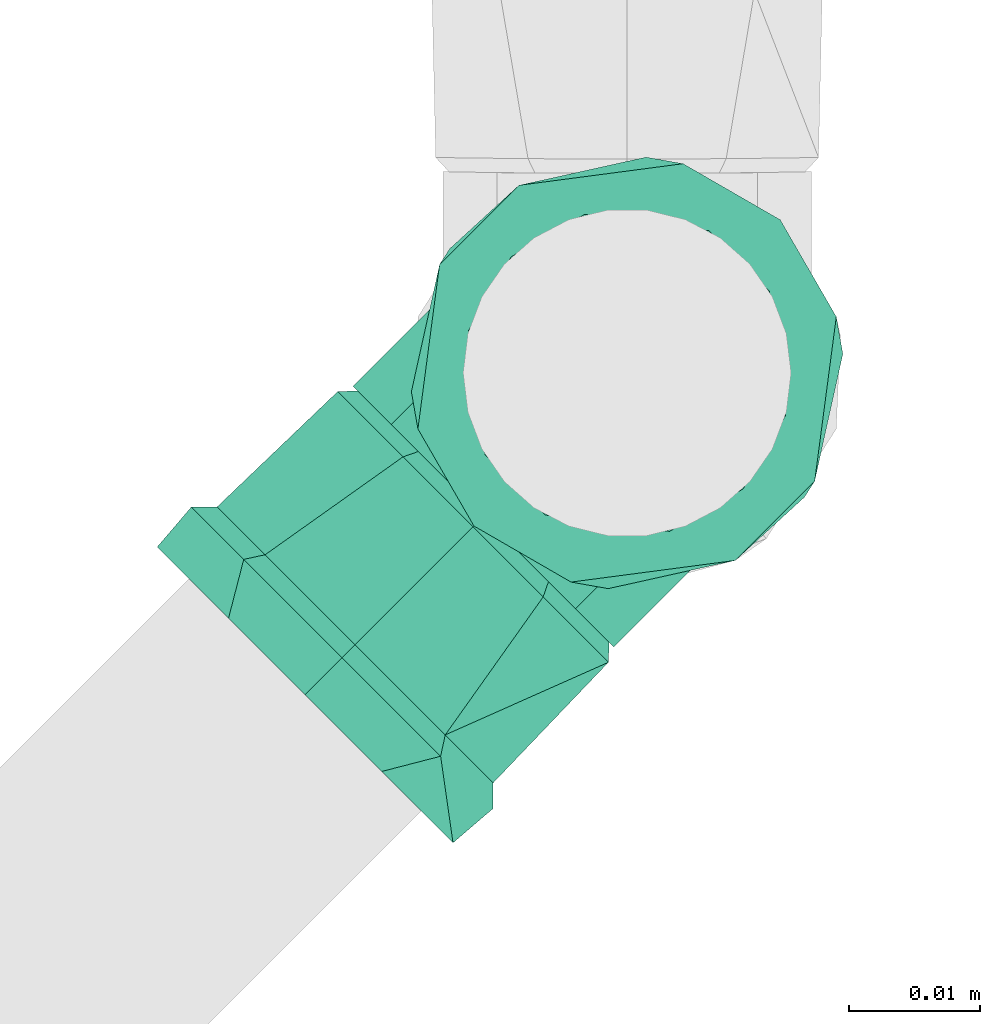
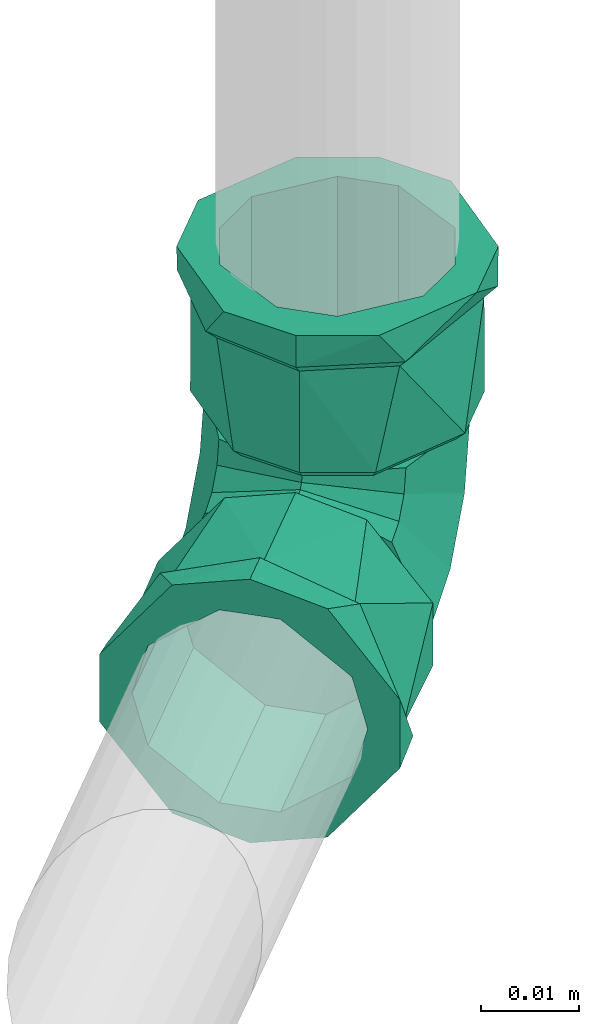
# One storey, part 341 of 589: 1 flow fitting.
"""IFC2X3 building model written with IfcOpenShell, lengths in millimetres."""

import ifcopenshell
import ifcopenshell.guid

model = None  # the IFC model being written
_history = None  # IfcOwnerHistory: only IFC2X3 demands one
_inside = {}  # id of a spatial element -> (the spatial element, [elements in it])
_under = {}  # id of a project, library or spatial element -> (it, [spatial elements below it])
_declared = {}  # id of a project -> (the project, [libraries it declares])
_typed = {}  # id of a type object -> (the type object, [elements of that type])
_made_of = {}  # id of a material, layer set ... -> (it, [elements and type objects made of it])


def new_model(schema):
    """Start an empty IFC model of exactly this schema.

    Asked for "IFC4X3", IfcOpenShell would pick the latest addendum, in which some entities
    have other attributes; the version numbers below select the first issue.
    IFC2X3 requires an IfcOwnerHistory on every rooted entity: one is made here for all.
    """
    global model, _history
    if schema == "IFC4X3":
        model = ifcopenshell.file(schema_version=(4, 3, 0, 0))
    else:
        model = ifcopenshell.file(schema=schema)
    _inside.clear()
    _under.clear()
    _declared.clear()
    _typed.clear()
    _made_of.clear()
    _history = None
    if model.schema == "IFC2X3":
        org = make("IfcOrganization", Name="unknown")
        user = make(
            "IfcPersonAndOrganization",
            ThePerson=make("IfcPerson", FamilyName="unknown"),
            TheOrganization=org,
        )
        app = make(
            "IfcApplication",
            ApplicationDeveloper=org,
            Version="unknown",
            ApplicationFullName="unknown",
            ApplicationIdentifier="unknown",
        )
        _history = make(
            "IfcOwnerHistory",
            OwningUser=user,
            OwningApplication=app,
            ChangeAction="ADDED",
            CreationDate=0,
        )
    return model


def make(cls, **values):
    """One entity of the class cls with the attributes given. An attribute that is None is left unset."""
    return model.create_entity(
        cls, **{name: value for name, value in values.items() if value is not None}
    )


def entity(cls, *values):
    """Any entity or typed value of the class cls, its attributes in the order of the schema. None: left unset."""
    e = model.create_entity(cls)
    for i, value in enumerate(values):
        if value is not None:
            e[i] = value
    return e


def rooted(cls, **values):
    """An entity with a GlobalId (a new one), such as an element, a storey or a relation."""
    return make(cls, GlobalId=ifcopenshell.guid.new(), OwnerHistory=_history, **values)


def si_unit(unit_type, name, prefix=None):
    """IfcSIUnit, for example si_unit("LENGTHUNIT", "METRE", prefix="MILLI")."""
    return make("IfcSIUnit", UnitType=unit_type, Prefix=prefix, Name=name)


def converted_unit(unit_type, name, factor, base, dimensions=None, offset=None):
    """IfcConversionBasedUnit, such as the inch: factor (a typed value) times the base unit."""
    return make(
        "IfcConversionBasedUnit"
        if offset is None
        else "IfcConversionBasedUnitWithOffset",
        ConversionOffset=offset,
        Dimensions=None
        if dimensions is None
        else entity("IfcDimensionalExponents", *dimensions),
        UnitType=unit_type,
        Name=name,
        ConversionFactor=make(
            "IfcMeasureWithUnit", ValueComponent=factor, UnitComponent=base
        ),
    )


def derived_unit(unit_type, elements):
    """IfcDerivedUnit: a product of units, each with its exponent."""
    return make(
        "IfcDerivedUnit",
        Elements=[
            make("IfcDerivedUnitElement", Unit=unit, Exponent=power)
            for unit, power in elements
        ],
        UnitType=unit_type,
    )


def assignment(units):
    """IfcUnitAssignment: the units of a project."""
    return None if units is None else make("IfcUnitAssignment", Units=units)


def point(xyz):
    """IfcCartesianPoint."""
    return None if xyz is None else make("IfcCartesianPoint", Coordinates=xyz)


def direction(xyz):
    """IfcDirection."""
    return None if xyz is None else make("IfcDirection", DirectionRatios=xyz)


def frame(location, z_axis=None, x_axis=None):
    """IfcAxis2Placement3D, a coordinate frame: its origin and axes. An axis left out is left unset."""
    return make(
        "IfcAxis2Placement3D",
        Location=point(location),
        Axis=direction(z_axis),
        RefDirection=direction(x_axis),
    )


def origin():
    """The frame at (0, 0, 0) with its axes left unset."""
    return frame((0.0, 0.0, 0.0))


def place(relative_to, where):
    """IfcLocalPlacement: puts the frame where relative to a parent placement (None: the world)."""
    return make(
        "IfcLocalPlacement", PlacementRelTo=relative_to, RelativePlacement=where
    )


def context(
    kind, dimensions, precision=None, world=None, true_north=None, identifier=None
):
    """IfcGeometricRepresentationContext, for example the 3D "Model" context."""
    return make(
        "IfcGeometricRepresentationContext",
        ContextIdentifier=identifier,
        ContextType=kind,
        CoordinateSpaceDimension=dimensions,
        Precision=precision,
        WorldCoordinateSystem=world,
        TrueNorth=true_north,
    )


def subcontext(parent, identifier, kind, view, scale=None):
    """IfcGeometricRepresentationSubContext, for example "Body" below "Model"."""
    return make(
        "IfcGeometricRepresentationSubContext",
        ContextIdentifier=identifier,
        ContextType=kind,
        ParentContext=parent,
        TargetScale=scale,
        TargetView=view,
    )


def project(units=None, contexts=None):
    """IfcProject with its units and contexts."""
    return rooted(
        "IfcProject",
        Name="project",
        RepresentationContexts=contexts,
        UnitsInContext=assignment(units),
    )


def spatial(cls, under=None, at=None, **own):
    """A site, building, storey or space (cls), placed at a placement, below another one or the project."""
    s = rooted(cls, ObjectPlacement=at, **own)
    if under is not None:
        _under.setdefault(under.id(), (under, []))[1].append(s)
    return s


def faces_of(points, faces, orient=None, outer=None):
    """IfcFace entities. A face is a list of loops; a loop is a list of indices into points, from 0.

    orient and outer hold one flag for each loop. By default every Orientation is true, the
    first loop of a face is its IfcFaceOuterBound and the others are IfcFaceBound.
    """
    made = []
    for i, loops in enumerate(faces):
        bounds = []
        for j, loop in enumerate(loops):
            is_outer = j == 0 if outer is None else outer[i][j]
            bounds.append(
                make(
                    "IfcFaceOuterBound" if is_outer else "IfcFaceBound",
                    Bound=make("IfcPolyLoop", Polygon=[points[k] for k in loop]),
                    Orientation=True if orient is None else orient[i][j],
                )
            )
        made.append(make("IfcFace", Bounds=bounds))
    return made


def faceted_brep(points, faces, orient=None, outer=None, voids=None):
    """IfcFacetedBrep: a solid bounded by flat faces; with voids (closed shells), ...WithVoids."""
    shared = [point(p) for p in points]
    hull = make("IfcClosedShell", CfsFaces=faces_of(shared, faces, orient, outer))
    if voids is None:
        return make("IfcFacetedBrep", Outer=hull)
    return make(
        "IfcFacetedBrepWithVoids",
        Outer=hull,
        Voids=[
            make(cls, CfsFaces=faces_of(shared, fs, o, b)) for cls, fs, o, b in voids
        ],
    )


def shape(context_of_items, identifier, shape_type, items):
    """IfcShapeRepresentation: the items that make up one representation, for example the "Body"."""
    return make(
        "IfcShapeRepresentation",
        ContextOfItems=context_of_items,
        RepresentationIdentifier=identifier,
        RepresentationType=shape_type,
        Items=items,
    )


def source(mapping_origin, context_of_items, identifier, shape_type, items):
    """IfcRepresentationMap: a shape defined once, which mapped items show again and again."""
    return make(
        "IfcRepresentationMap",
        MappingOrigin=mapping_origin,
        MappedRepresentation=shape(context_of_items, identifier, shape_type, items),
    )


def transform(
    local_origin,
    x_axis=None,
    y_axis=None,
    z_axis=None,
    scale=None,
    scale2=None,
    scale3=None,
    uniform=True,
):
    """IfcCartesianTransformationOperator3D, or its non-uniform kind. x_axis, y_axis, z_axis: its Axis1, 2, 3."""
    if uniform:
        return make(
            "IfcCartesianTransformationOperator3D",
            Axis1=direction(x_axis),
            Axis2=direction(y_axis),
            LocalOrigin=point(local_origin),
            Scale=scale,
            Axis3=direction(z_axis),
        )
    return make(
        "IfcCartesianTransformationOperator3DnonUniform",
        Axis1=direction(x_axis),
        Axis2=direction(y_axis),
        LocalOrigin=point(local_origin),
        Scale=scale,
        Axis3=direction(z_axis),
        Scale2=scale2,
        Scale3=scale3,
    )


def mapped(mapping_source, mapping_target):
    """IfcMappedItem: shows the shape of a source again, moved by a transform."""
    return make(
        "IfcMappedItem", MappingSource=mapping_source, MappingTarget=mapping_target
    )


def material(Name=None, Category=None):
    """IfcMaterial."""
    return make("IfcMaterial", Name=Name, Category=Category)


def made_of(thing, what):
    """Note that an element or type object is made of a material, layer set ...; save() writes the relation."""
    if what is not None:
        _made_of.setdefault(what.id(), (what, []))[1].append(thing)
    return thing


def type_object(cls, material=None, **own):
    """A type object (cls), such as IfcWallType, which elements share."""
    return made_of(rooted(cls, **own), material)


def type_shapes(of_type, sources):
    """Give a type object the sources (RepresentationMaps) that its elements show as mapped items."""
    of_type.RepresentationMaps = sources


def element(
    cls,
    number,
    at=None,
    inside=None,
    cuts=None,
    type_object=None,
    material=None,
    context=None,
    identifier="Body",
    shape_type=None,
    held_by="IfcProductDefinitionShape",
    body=None,
    shapes=None,
    **own,
):
    """One element of the class cls, such as IfcWall. Its Tag is "e" and its number.

    at: its placement. inside: the storey or other place that contains it. cuts: it is an
    opening in that element (IfcRelVoidsElement). A single representation is given by context,
    identifier, shape_type and body (its items); several are given by shapes. held_by: the class
    of the entity that holds the representations. save() writes the other relations.
    """
    e = rooted(cls, Tag="e%d" % number, ObjectPlacement=at, **own)
    if body is not None:
        shapes = [shape(context, identifier, shape_type, body)]
    if shapes is not None:
        e.Representation = make(held_by, Representations=shapes)
    if inside is not None:
        _inside.setdefault(inside.id(), (inside, []))[1].append(e)
    if cuts is not None:
        rooted(
            "IfcRelVoidsElement", RelatingBuildingElement=cuts, RelatedOpeningElement=e
        )
    if type_object is not None:
        _typed.setdefault(type_object.id(), (type_object, []))[1].append(e)
    return made_of(e, material)


def aggregate(whole, parts):
    """IfcRelAggregates: a whole, such as a stair, and the parts it consists of."""
    return rooted("IfcRelAggregates", RelatingObject=whole, RelatedObjects=parts)


def save(model, path):
    """Write the relations noted so far, then the file.

    IfcRelAggregates (storeys below a building ...), IfcRelContainedInSpatialStructure (elements
    in a storey), IfcRelDefinesByType, IfcRelAssociatesMaterial and IfcRelDeclares: one each for
    every whole, place, type object, material and project.
    """
    for whole, parts in _under.values():
        aggregate(whole, parts)
    for where, things in _inside.values():
        rooted(
            "IfcRelContainedInSpatialStructure",
            RelatedElements=things,
            RelatingStructure=where,
        )
    for kind, things in _typed.values():
        rooted("IfcRelDefinesByType", RelatedObjects=things, RelatingType=kind)
    for what, things in _made_of.values():
        rooted("IfcRelAssociatesMaterial", RelatedObjects=things, RelatingMaterial=what)
    for by, libraries in _declared.values():
        rooted("IfcRelDeclares", RelatingContext=by, RelatedDefinitions=libraries)
    model.write(path)


model = new_model("IFC2X3")

# Units and contexts
model_context = context("Model", 3, precision=0.01, world=origin(), true_north=direction((6.123031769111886e-17, 1.0)))
body_context = subcontext(model_context, "Body", "Model", "MODEL_VIEW")
ifc_project = project(units=[si_unit("LENGTHUNIT", "METRE", prefix="MILLI"), si_unit("AREAUNIT", "SQUARE_METRE"), si_unit("VOLUMEUNIT", "CUBIC_METRE"), converted_unit("PLANEANGLEUNIT", "DEGREE", entity("IfcRatioMeasure", 0.017453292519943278), si_unit("PLANEANGLEUNIT", "RADIAN"), dimensions=[0, 0, 0, 0, 0, 0, 0]), si_unit("MASSUNIT", "GRAM", prefix="KILO"), derived_unit("MASSDENSITYUNIT", [(si_unit("MASSUNIT", "GRAM", prefix="KILO"), 1), (si_unit("LENGTHUNIT", "METRE"), -3)]), derived_unit("IONCONCENTRATIONUNIT", [(si_unit("MASSUNIT", "GRAM", prefix="KILO"), 1), (si_unit("LENGTHUNIT", "METRE"), -3)]), derived_unit("MOMENTOFINERTIAUNIT", [(si_unit("LENGTHUNIT", "METRE"), 4)]), si_unit("TIMEUNIT", "SECOND"), si_unit("FREQUENCYUNIT", "HERTZ"), si_unit("THERMODYNAMICTEMPERATUREUNIT", "DEGREE_CELSIUS"), derived_unit("THERMALTRANSMITTANCEUNIT", [(si_unit("MASSUNIT", "GRAM", prefix="KILO"), 1), (si_unit("THERMODYNAMICTEMPERATUREUNIT", "KELVIN"), -1), (si_unit("TIMEUNIT", "SECOND"), -3)]), derived_unit("THERMALCONDUCTANCEUNIT", [(si_unit("MASSUNIT", "GRAM", prefix="KILO"), 1), (si_unit("THERMODYNAMICTEMPERATUREUNIT", "KELVIN"), -1), (si_unit("TIMEUNIT", "SECOND"), -3), (si_unit("LENGTHUNIT", "METRE"), 1)]), derived_unit("VOLUMETRICFLOWRATEUNIT", [(si_unit("LENGTHUNIT", "METRE"), 3), (si_unit("TIMEUNIT", "SECOND"), -1)]), derived_unit("MASSFLOWRATEUNIT", [(si_unit("MASSUNIT", "GRAM", prefix="KILO"), 1), (si_unit("TIMEUNIT", "SECOND"), -1)]), derived_unit("ROTATIONALFREQUENCYUNIT", [(si_unit("TIMEUNIT", "SECOND"), -1)]), si_unit("ELECTRICCURRENTUNIT", "AMPERE"), si_unit("ELECTRICVOLTAGEUNIT", "VOLT"), si_unit("POWERUNIT", "WATT"), si_unit("FORCEUNIT", "NEWTON", prefix="KILO"), si_unit("ILLUMINANCEUNIT", "LUX"), si_unit("LUMINOUSFLUXUNIT", "LUMEN"), si_unit("LUMINOUSINTENSITYUNIT", "CANDELA"), derived_unit("USERDEFINED", [(si_unit("MASSUNIT", "GRAM", prefix="KILO"), -1), (si_unit("LENGTHUNIT", "METRE"), -2), (si_unit("TIMEUNIT", "SECOND"), 3), (si_unit("LUMINOUSFLUXUNIT", "LUMEN"), 1)]), derived_unit("USERDEFINED", [(si_unit("MASSUNIT", "GRAM", prefix="KILO"), 1), (si_unit("TIMEUNIT", "SECOND"), -3), (si_unit("LENGTHUNIT", "METRE"), 3), (si_unit("ELECTRICCURRENTUNIT", "AMPERE"), -2)]), derived_unit("SOUNDPOWERUNIT", [(si_unit("MASSUNIT", "GRAM", prefix="KILO"), 1), (si_unit("TIMEUNIT", "SECOND"), -3), (si_unit("LENGTHUNIT", "METRE"), 2)]), derived_unit("SOUNDPRESSUREUNIT", [(si_unit("MASSUNIT", "GRAM", prefix="KILO"), 1), (si_unit("LENGTHUNIT", "METRE"), -1), (si_unit("TIMEUNIT", "SECOND"), -2)]), derived_unit("LINEARVELOCITYUNIT", [(si_unit("LENGTHUNIT", "METRE"), 1), (si_unit("TIMEUNIT", "SECOND"), -1)]), si_unit("PRESSUREUNIT", "PASCAL"), derived_unit("USERDEFINED", [(si_unit("MASSUNIT", "GRAM", prefix="KILO"), 1), (si_unit("LENGTHUNIT", "METRE"), -2), (si_unit("TIMEUNIT", "SECOND"), -2)]), derived_unit("LINEARFORCEUNIT", [(si_unit("MASSUNIT", "GRAM", prefix="KILO"), 1), (si_unit("TIMEUNIT", "SECOND"), -2)]), derived_unit("PLANARFORCEUNIT", [(si_unit("MASSUNIT", "GRAM", prefix="KILO"), 1), (si_unit("LENGTHUNIT", "METRE"), -1), (si_unit("TIMEUNIT", "SECOND"), -2)]), derived_unit("SPECIFICHEATCAPACITYUNIT", [(si_unit("THERMODYNAMICTEMPERATUREUNIT", "KELVIN"), -1), (si_unit("LENGTHUNIT", "METRE"), 2), (si_unit("TIMEUNIT", "SECOND"), -2)]), derived_unit("HEATINGVALUEUNIT", [(si_unit("LENGTHUNIT", "METRE"), 2), (si_unit("TIMEUNIT", "SECOND"), -2)]), derived_unit("VAPORPERMEABILITYUNIT", [(si_unit("LENGTHUNIT", "METRE"), -1), (si_unit("TIMEUNIT", "SECOND"), 1)]), derived_unit("DYNAMICVISCOSITYUNIT", [(si_unit("MASSUNIT", "GRAM", prefix="KILO"), 1), (si_unit("TIMEUNIT", "SECOND"), -1), (si_unit("LENGTHUNIT", "METRE"), -1)]), derived_unit("THERMALEXPANSIONCOEFFICIENTUNIT", [(si_unit("THERMODYNAMICTEMPERATUREUNIT", "KELVIN"), -1)]), derived_unit("MODULUSOFELASTICITYUNIT", [(si_unit("MASSUNIT", "GRAM", prefix="KILO"), 1), (si_unit("LENGTHUNIT", "METRE"), -1), (si_unit("TIMEUNIT", "SECOND"), -2)]), derived_unit("ISOTHERMALMOISTURECAPACITYUNIT", [(si_unit("LENGTHUNIT", "METRE"), 3), (si_unit("MASSUNIT", "GRAM", prefix="KILO"), -1)]), derived_unit("MOISTUREDIFFUSIVITYUNIT", [(si_unit("TIMEUNIT", "SECOND"), -1), (si_unit("LENGTHUNIT", "METRE"), 2)])], contexts=[model_context])

# Site, building, storey
site_placement = place(None, origin())
site = spatial("IfcSite", under=ifc_project, at=site_placement, Name="Default", CompositionType="ELEMENT")
building_placement = place(site_placement, origin())
building = spatial("IfcBuilding", under=site, at=building_placement, CompositionType="ELEMENT")
storey_placement = place(building_placement, frame((0.0, 0.0, 100.0)))
storey = spatial("IfcBuildingStorey", under=building, at=storey_placement, Name="TÉRREO", CompositionType="ELEMENT", Elevation=100.0)

# Flow fitting
ifc_material = material(Name="PVC Marrom")
pipe_fitting_type = type_object("IfcPipeFittingType", Name="PVC Marrom Soldável_Joelho 45°_90°_Rodrigo MEP:Joelho", PredefinedType="NOTDEFINED", material=ifc_material)
shared_shape = source(origin(), body_context, "Body", "Brep", [
    faceted_brep([(3.908183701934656, 16.599981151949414, 14.585479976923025), (13.076999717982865, 16.599972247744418, 7.549999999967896), (15.10001612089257, 16.599970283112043, 0.0), (13.07699971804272, 16.599972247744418, -7.550000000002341), (3.9081837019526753, 16.599981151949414, -14.585479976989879), (-3.908151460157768, 16.59998874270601, -14.585479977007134), (-13.076967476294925, 16.59999764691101, -7.550000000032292), (-15.099983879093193, 16.59999961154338, 0.0), (-13.07696747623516, 16.59999764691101, 7.54999999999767), (-3.908151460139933, 16.59998874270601, 14.585479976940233), (-3.6338043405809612, 15.499988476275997, 13.561598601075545), (-12.15898161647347, 15.4999967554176, 7.019999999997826), (-14.039984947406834, 15.499998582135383, 0.0), (-12.158981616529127, 15.4999967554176, -7.020000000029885), (-3.633804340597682, 15.499988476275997, -13.56159860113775), (3.633834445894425, 15.499981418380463, -13.561598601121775), (12.159011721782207, 15.49997313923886, -7.0200000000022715), (14.040015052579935, 15.499971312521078, 0.0), (12.1590117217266, 15.49997313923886, 7.01999999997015), (3.633834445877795, 15.499981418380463, 13.561598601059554)], [[[0, 1, 2, 3, 4, 5, 6, 7, 8, 9]], [[10, 11, 12, 13, 14, 15, 16, 17, 18, 19]], [[3, 2, 17, 16]], [[4, 3, 16, 15]], [[15, 14, 5, 4]], [[6, 5, 14, 13]], [[7, 6, 13, 12]], [[8, 7, 12, 11]], [[9, 8, 11, 10]], [[10, 19, 0, 9]], [[1, 0, 19, 18]], [[2, 1, 18, 17]]]),
    faceted_brep([(-16.599984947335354, 3.908167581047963, 14.585479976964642), (-16.599984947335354, 13.076983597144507, 7.549999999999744), (-16.599984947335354, 15.100000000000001, 0.0), (-16.599984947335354, 13.076983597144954, -7.54999999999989), (-16.599984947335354, 3.9081675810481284, -14.58547997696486), (-16.599984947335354, -3.9081675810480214, -14.585479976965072), (-16.599984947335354, -13.0769835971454, -7.550000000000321), (-16.599984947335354, -15.099999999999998, 0.0), (-16.599984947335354, -13.076983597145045, 7.550000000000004), (-16.599984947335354, -3.908167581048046, 14.585479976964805), (-15.499984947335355, 12.158996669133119, 7.019999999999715), (-15.499984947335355, 3.6338193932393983, 13.561598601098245), (-15.499984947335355, -3.633819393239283, 13.56159860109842), (-15.499984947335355, -12.15899666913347, 7.020000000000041), (-15.499984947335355, -14.040000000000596, 0.0), (-15.499984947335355, -12.158996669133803, -7.020000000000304), (-15.499984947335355, -3.63381939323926, -13.561598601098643), (-15.499984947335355, 3.6338193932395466, -13.56159860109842), (-15.499984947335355, 12.158996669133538, -7.019999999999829), (-15.499984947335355, 14.03999999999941, 0.0)], [[[0, 1, 2, 3, 4, 5, 6, 7, 8, 9]], [[10, 11, 12, 13, 14, 15, 16, 17, 18, 19]], [[3, 2, 19, 18]], [[4, 3, 18, 17]], [[17, 16, 5, 4]], [[6, 5, 16, 15]], [[7, 6, 15, 14]], [[8, 7, 14, 13]], [[9, 8, 13, 12]], [[12, 11, 0, 9]], [[1, 0, 11, 10]], [[2, 1, 10, 19]]]),
    faceted_brep([(-34.69998494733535, -4.2705142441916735, -15.937776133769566), (-34.69998494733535, -6.250000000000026, -10.825317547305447), (-34.69998494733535, 0.0, -12.5), (-34.69998494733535, -14.289419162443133, -8.25000000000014), (-34.69998494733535, 4.270514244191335, -15.937776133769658), (-34.69998494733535, -12.074072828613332, -3.23523806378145), (-34.69998494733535, -16.499999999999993, 0.0), (-34.69998494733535, -12.074072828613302, 3.2352380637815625), (-34.69998494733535, -14.289419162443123, 8.249999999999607), (-34.69998494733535, -6.249999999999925, 10.825317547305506), (-34.69998494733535, -4.27051424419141, 15.937776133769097), (-34.69998494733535, 0.0, 12.5), (-34.69998494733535, 4.270514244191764, 15.937776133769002), (-34.69998494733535, 6.249999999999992, 10.825317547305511), (-34.69998494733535, 14.28941916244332, 8.249999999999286), (-34.69998494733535, 12.074072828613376, 3.2352380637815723), (-34.69998494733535, 16.500000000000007, 0.0), (-34.69998494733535, 12.074072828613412, -3.235238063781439), (-34.69998494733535, 14.289419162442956, -8.250000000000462), (-34.69998494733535, 6.250000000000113, -10.82531754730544), (-30.699984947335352, 16.5, 0.0), (-30.699984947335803, 12.639142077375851, 10.606700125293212), (-30.6999849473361, 2.8633833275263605, 16.249647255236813), (-30.699984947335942, -12.64180232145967, 10.603529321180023), (-30.699984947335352, -16.499999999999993, 0.0), (-30.699984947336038, -4.889209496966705, 13.426588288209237), (-30.69998494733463, -12.641802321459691, -10.603529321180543), (-30.69998494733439, -2.8674593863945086, -16.24892847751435), (-30.699984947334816, 12.639142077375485, -10.606700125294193), (-30.6999849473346, 4.885841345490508, -13.427814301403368), (-29.299984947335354, -15.099999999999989, 0.0), (-29.29998494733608, -11.56916454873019, 9.703835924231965), (-29.299984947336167, -4.474367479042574, 12.287362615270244), (-29.299984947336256, 2.6204295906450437, 14.870889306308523), (-29.29998494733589, 11.566730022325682, 9.706737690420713), (-29.29998494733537, 15.099999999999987, 0.0), (-29.299984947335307, 11.566730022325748, -9.706737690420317), (-29.29998494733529, 4.4712851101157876, -12.28848460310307), (-29.29998494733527, -2.6241598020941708, -14.870231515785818), (-29.299984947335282, -11.569164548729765, -9.703835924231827), (-16.599984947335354, 0.0, -12.5), (-16.599984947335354, -6.250000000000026, -10.825317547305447), (-16.599984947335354, -3.908167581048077, -14.585479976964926), (-16.599984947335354, 3.9081675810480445, -14.585479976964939), (-16.599984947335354, 6.250000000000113, -10.82531754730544), (-16.599984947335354, -13.076983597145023, -7.549999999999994), (-16.599984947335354, -12.074072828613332, -3.23523806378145), (-16.599984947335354, -15.099999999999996, 0.0), (-16.599984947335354, -12.074072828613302, 3.2352380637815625), (-16.599984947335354, -13.076983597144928, 7.550000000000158), (-16.599984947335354, -6.249999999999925, 10.825317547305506), (-16.599984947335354, -3.9081675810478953, 14.585479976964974), (-16.599984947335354, 0.0, 12.5), (-16.599984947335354, 3.9081675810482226, 14.58547997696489), (-16.599984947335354, 6.249999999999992, 10.825317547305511), (-16.599984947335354, 13.076983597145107, 7.549999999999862), (-16.599984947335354, 12.074072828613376, 3.2352380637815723), (-16.599984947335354, 15.100000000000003, 0.0), (-16.599984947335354, 12.074072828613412, -3.235238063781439), (-16.599984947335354, 13.076983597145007, -7.550000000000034)], [[[0, 1, 2]], [[1, 0, 3]], [[2, 4, 0]], [[3, 5, 1]], [[3, 6, 5]], [[5, 6, 7]], [[8, 7, 6]], [[7, 8, 9]], [[10, 9, 8]], [[9, 10, 11]], [[11, 10, 12]], [[12, 13, 11]], [[14, 13, 12]], [[13, 14, 15]], [[16, 15, 14]], [[16, 17, 15]], [[18, 17, 16]], [[19, 17, 18]], [[19, 18, 4]], [[4, 2, 19]], [[16, 14, 20]], [[14, 21, 20]], [[21, 14, 12]], [[21, 12, 22]], [[23, 10, 8]], [[24, 8, 6]], [[10, 23, 25, 22]], [[23, 8, 24]], [[10, 22, 12]], [[6, 3, 24]], [[3, 26, 24]], [[26, 3, 0]], [[26, 0, 27]], [[28, 4, 18]], [[20, 18, 16]], [[4, 28, 29, 27]], [[28, 18, 20]], [[4, 27, 0]], [[30, 31, 23, 24]], [[31, 32, 33, 22, 25, 23]], [[34, 35, 20, 21]], [[34, 21, 22, 33]], [[35, 36, 28, 20]], [[36, 37, 38, 27, 29, 28]], [[39, 30, 24, 26]], [[39, 26, 27, 38]], [[40, 41, 42]], [[42, 43, 40]], [[44, 40, 43]], [[45, 42, 41]], [[41, 46, 45]], [[46, 47, 45]], [[48, 47, 46]], [[47, 48, 49]], [[50, 49, 48]], [[49, 50, 51]], [[52, 51, 50]], [[53, 51, 52]], [[52, 54, 53]], [[53, 54, 55]], [[56, 55, 54]], [[55, 56, 57]], [[56, 58, 57]], [[59, 58, 44]], [[57, 58, 59]], [[43, 59, 44]], [[35, 34, 55]], [[35, 55, 57]], [[55, 34, 53]], [[34, 33, 53]], [[51, 33, 32, 31]], [[49, 31, 30]], [[31, 49, 51]], [[49, 30, 47]], [[33, 51, 53]], [[30, 39, 45]], [[30, 45, 47]], [[45, 39, 42]], [[39, 38, 42]], [[43, 38, 37, 36]], [[59, 36, 35]], [[36, 59, 43]], [[59, 35, 57]], [[38, 43, 42]], [[9, 11, 52, 50]], [[7, 9, 50, 48]], [[48, 46, 5, 7]], [[1, 5, 46, 41]], [[2, 1, 41, 40]], [[19, 2, 40, 44]], [[17, 19, 44, 58]], [[58, 56, 15, 17]], [[13, 15, 56, 54]], [[11, 13, 54, 52]]]),
    faceted_brep([(-0.7299932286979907, -10.082395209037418, 0.0), (-2.7861024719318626, -6.521106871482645, 9.92777920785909), (-15.499984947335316, -9.927779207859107, 9.92777920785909), (-15.499984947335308, -14.039999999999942, 0.0), (-7.749989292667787, 2.0766037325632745, 14.04), (-15.499984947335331, 0.0, 14.04), (-12.713876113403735, 10.674314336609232, 9.927779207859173), (-15.49998494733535, 9.927779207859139, 9.927779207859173), (-14.769985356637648, 14.23560267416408, 0.0), (-15.499984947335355, 14.040000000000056, 0.0), (-12.71387611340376, 10.674314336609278, -9.92777920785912), (-15.49998494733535, 9.927779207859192, -9.92777920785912), (-7.749989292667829, 2.0766037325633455, -14.04), (-15.499984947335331, 0.0, -14.04), (-2.78610247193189, -6.521106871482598, -9.927779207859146), (-15.499984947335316, -9.927779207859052, -9.927779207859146), (10.082395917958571, 0.7299834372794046, 0.0), (6.521109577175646, 2.786096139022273, 9.92777920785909), (-2.0765962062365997, 7.749991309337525, 14.04), (-10.674301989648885, 12.713886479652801, 9.927779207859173), (-14.235588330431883, 14.769999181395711, 0.0), (-10.674301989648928, 12.713886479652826, -9.92777920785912), (-2.0765962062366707, 7.749991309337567, -14.04), (6.521109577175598, 2.7860961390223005, -9.927779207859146), (14.040015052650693, 15.499971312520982, 0.0), (9.927794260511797, 15.499975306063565, 9.92777920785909), (1.5052657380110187e-05, 15.499984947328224, 14.04), (-9.927764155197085, 15.499994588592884, 9.927779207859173), (-14.039984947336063, 15.499998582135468, 0.0), (-9.927764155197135, 15.499994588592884, -9.92777920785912), (1.5052657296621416e-05, 15.499984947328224, -14.04), (9.927794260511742, 15.499975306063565, -9.927779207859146)], [[[0, 1, 2, 3]], [[1, 4, 5, 2]], [[4, 6, 7, 5]], [[6, 8, 9, 7]], [[8, 10, 11, 9]], [[10, 12, 13, 11]], [[12, 14, 15, 13]], [[14, 0, 3, 15]], [[16, 17, 1, 0]], [[17, 18, 4, 1]], [[18, 19, 6, 4]], [[19, 20, 8, 6]], [[20, 21, 10, 8]], [[21, 22, 12, 10]], [[22, 23, 14, 12]], [[23, 16, 0, 14]], [[24, 25, 17, 16]], [[25, 26, 18, 17]], [[26, 27, 19, 18]], [[27, 28, 20, 19]], [[28, 29, 21, 20]], [[29, 30, 22, 21]], [[30, 31, 23, 22]], [[31, 24, 16, 23]], [[3, 2, 5, 7, 9, 11, 13, 15]], [[31, 30, 29, 28, 27, 26, 25, 24]]]),
    faceted_brep([(1.612091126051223e-05, 16.599984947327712, -12.5), (-6.2499838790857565, 16.599991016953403, -10.825317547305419), (-3.908151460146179, 16.59998874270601, -14.585479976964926), (3.908183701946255, 16.599981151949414, -14.585479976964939), (6.250016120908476, 16.59997887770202, -10.825317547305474), (-13.076967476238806, 16.59999764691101, -7.549999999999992), (-12.07405670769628, 16.599996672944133, -3.2352380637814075), (-15.099983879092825, 16.59999961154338, 0.0), (-12.07405670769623, 16.599996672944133, 3.235238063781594), (-13.07696747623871, 16.59999764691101, 7.550000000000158), (-6.2499838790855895, 16.599991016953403, 10.825317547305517), (-3.908151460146, 16.59998874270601, 14.585479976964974), (1.612091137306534e-05, 16.599984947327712, 12.5), (3.9081837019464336, 16.599981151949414, 14.58547997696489), (6.250016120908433, 16.59997887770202, 10.8253175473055), (13.076999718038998, 16.599972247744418, 7.549999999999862), (12.074088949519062, 16.59997322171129, 3.2352380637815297), (15.100016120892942, 16.599970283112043, 0.0), (12.074088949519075, 16.59997322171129, -3.2352380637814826), (13.0769997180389, 16.599972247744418, -7.550000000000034), (15.100028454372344, 29.299970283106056, 0.0), (11.566758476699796, 29.299973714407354, 9.706737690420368), (4.471313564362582, 29.29998060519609, 12.288484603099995), (-2.624131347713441, 29.29998749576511, 14.870231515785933), (-11.569136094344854, 29.299996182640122, 9.703835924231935), (-15.099971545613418, 29.299999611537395, 0.0), (-11.569136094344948, 29.299996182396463, -9.703835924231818), (-4.474339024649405, 29.299989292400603, -12.287362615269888), (2.6204580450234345, 29.299982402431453, -14.870889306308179), (11.56675847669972, 29.299973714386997, -9.706737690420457), (-12.639112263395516, 30.699997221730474, 10.606700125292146), (-16.499970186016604, 30.70000097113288, 0.0), (-2.8633535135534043, 30.69998772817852, 16.249647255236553), (12.64183213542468, 30.699972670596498, 10.603529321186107), (4.889239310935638, 30.699980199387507, 13.426588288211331), (16.500029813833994, 30.69996892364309, 0.0), (12.641832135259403, 30.69997267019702, -10.603529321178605), (2.8674892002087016, 30.699982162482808, -16.248928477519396), (-12.639112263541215, 30.699997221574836, -10.606700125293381), (-4.885811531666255, 30.699989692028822, -13.427814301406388), (-4.2704805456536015, 34.69998909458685, -15.937776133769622), (-6.249966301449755, 34.699991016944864, -10.825317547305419), (3.369854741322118e-05, 34.69998494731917, -12.5), (-14.289385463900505, 34.699998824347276, -8.249999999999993), (4.270547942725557, 34.6999808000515, -15.937776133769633), (-12.074039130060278, 34.69999667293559, -3.2352380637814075), (-16.49996630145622, 34.70000097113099, 0.0), (-12.074039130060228, 34.69999667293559, 3.235238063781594), (-14.289385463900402, 34.699998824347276, 8.250000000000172), (-6.2499663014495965, 34.699991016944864, 10.825317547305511), (-4.2704805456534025, 34.69998909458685, 15.937776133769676), (3.3698547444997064e-05, 34.69998494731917, 12.5), (4.270547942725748, 34.6999808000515, 15.937776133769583), (6.250033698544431, 34.69997887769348, 10.825317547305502), (14.289452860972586, 34.69997107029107, 8.24999999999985), (12.074106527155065, 34.699973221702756, 3.2352380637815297), (16.50003369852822, 34.699968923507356, 0.0), (12.074106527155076, 34.699973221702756, -3.235238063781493), (14.289452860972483, 34.69997107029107, -8.250000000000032), (6.250033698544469, 34.69997887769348, -10.825317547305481)], [[[0, 1, 2]], [[2, 3, 0]], [[4, 0, 3]], [[5, 2, 1]], [[1, 6, 5]], [[6, 7, 5]], [[8, 7, 6]], [[7, 8, 9]], [[10, 9, 8]], [[9, 10, 11]], [[12, 11, 10]], [[13, 11, 12]], [[12, 14, 13]], [[13, 14, 15]], [[16, 15, 14]], [[15, 16, 17]], [[16, 18, 17]], [[19, 18, 4]], [[17, 18, 19]], [[3, 19, 4]], [[20, 21, 15]], [[20, 15, 17]], [[15, 21, 13]], [[13, 21, 22, 23]], [[11, 23, 24]], [[9, 24, 25]], [[24, 9, 11]], [[9, 25, 7]], [[23, 11, 13]], [[25, 26, 5]], [[25, 5, 7]], [[5, 26, 2]], [[2, 26, 27, 28]], [[3, 28, 29]], [[19, 29, 20]], [[29, 19, 3]], [[19, 20, 17]], [[28, 3, 2]], [[24, 23, 30]], [[25, 24, 31]], [[31, 24, 30]], [[23, 32, 30]], [[21, 20, 33]], [[21, 33, 34]], [[22, 32, 23]], [[35, 33, 20]], [[32, 22, 34]], [[22, 21, 34]], [[20, 29, 36]], [[36, 35, 20]], [[37, 36, 29]], [[38, 39, 27]], [[29, 28, 37]], [[26, 25, 31]], [[38, 27, 26]], [[38, 26, 31]], [[28, 39, 37]], [[39, 28, 27]], [[40, 41, 42]], [[41, 40, 43]], [[42, 44, 40]], [[43, 45, 41]], [[43, 46, 45]], [[45, 46, 47]], [[48, 47, 46]], [[47, 48, 49]], [[50, 49, 48]], [[49, 50, 51]], [[51, 50, 52]], [[52, 53, 51]], [[54, 53, 52]], [[53, 54, 55]], [[56, 55, 54]], [[56, 57, 55]], [[58, 57, 56]], [[59, 57, 58]], [[59, 58, 44]], [[44, 42, 59]], [[56, 54, 35]], [[54, 33, 35]], [[33, 54, 52]], [[52, 32, 34, 33]], [[30, 50, 48]], [[31, 48, 46]], [[50, 30, 32]], [[30, 48, 31]], [[50, 32, 52]], [[46, 43, 31]], [[43, 38, 31]], [[38, 43, 40]], [[40, 37, 39, 38]], [[36, 44, 58]], [[35, 58, 56]], [[44, 36, 37]], [[36, 58, 35]], [[44, 37, 40]], [[49, 51, 12, 10]], [[47, 49, 10, 8]], [[8, 6, 45, 47]], [[41, 45, 6, 1]], [[42, 41, 1, 0]], [[59, 42, 0, 4]], [[57, 59, 4, 18]], [[18, 16, 55, 57]], [[53, 55, 16, 14]], [[51, 53, 14, 12]]]),
])
type_shapes(pipe_fitting_type, [shared_shape])
flow_fitting_placement = place(storey_placement, frame((3151.953770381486, -7642.223554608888, -37.35698026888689), z_axis=(-0.7071067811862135, 0.7071067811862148, -9.711401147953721e-07), x_axis=(0.0, -1.3733995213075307e-06, -1.0)))
element("IfcFlowFitting", 1, at=flow_fitting_placement, inside=storey, type_object=pipe_fitting_type, material=ifc_material, Name="PVC Marrom Soldável_Joelho 45°_90°_Rodrigo MEP:Joelho", ObjectType="PVC Marrom Soldável_Joelho 45°_90°_Rodrigo MEP:Joelho", context=body_context, shape_type="MappedRepresentation", body=[
    mapped(shared_shape, transform((0.0, 0.0, 0.0), scale=1.0)),
])

save(model, "model.ifc")
